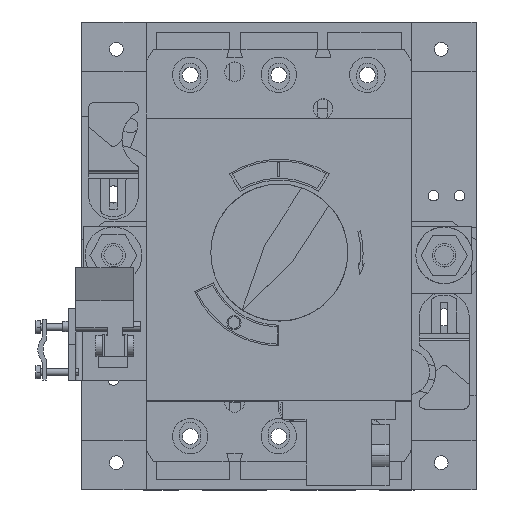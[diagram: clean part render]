
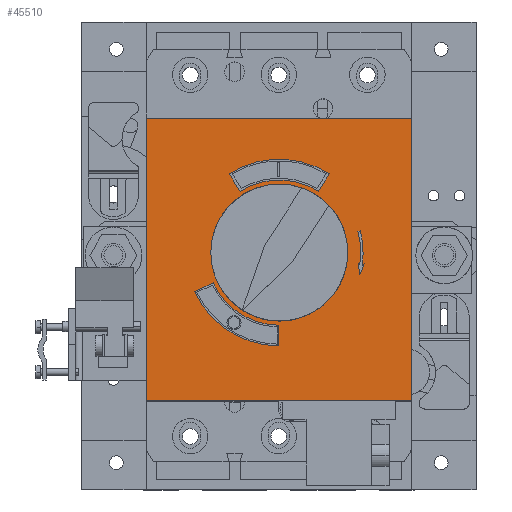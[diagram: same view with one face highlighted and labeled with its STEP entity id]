
A CAD part, top view. The second image highlights one B-rep face of the part: STEP entity #45510.
In plain terms, the highlighted planar face has unit normal (0, 0, 1).
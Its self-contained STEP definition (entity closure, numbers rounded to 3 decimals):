
#451 = FACE_BOUND ( 'NONE', #38839, .T. ) ;
#683 = DIRECTION ( 'NONE',  ( 1., 0., 0. ) ) ;
#946 = VERTEX_POINT ( 'NONE', #26856 ) ;
#1020 = VECTOR ( 'NONE', #18041, 1000. ) ;
#1097 = EDGE_CURVE ( 'NONE', #5021, #47071, #46709, .T. ) ;
#1280 = DIRECTION ( 'NONE',  ( 0.537, -0.843, 0. ) ) ;
#1625 = VERTEX_POINT ( 'NONE', #16471 ) ;
#1743 = CIRCLE ( 'NONE', #13530, 39.5 ) ;
#2472 = CARTESIAN_POINT ( 'NONE',  ( 56.12, -61.753, 267.1 ) ) ;
#3444 = LINE ( 'NONE', #12044, #19933 ) ;
#3824 = DIRECTION ( 'NONE',  ( 1., 0., 0. ) ) ;
#4788 = PLANE ( 'NONE',  #9354 ) ;
#5021 = VERTEX_POINT ( 'NONE', #2472 ) ;
#5835 = EDGE_CURVE ( 'NONE', #1625, #34906, #9898, .T. ) ;
#5933 = VECTOR ( 'NONE', #23138, 1000. ) ;
#6810 = VERTEX_POINT ( 'NONE', #45883 ) ;
#7171 = CARTESIAN_POINT ( 'NONE',  ( -21.023, 34.356, 267.1 ) ) ;
#7245 = EDGE_CURVE ( 'NONE', #34906, #5021, #29659, .T. ) ;
#8205 = EDGE_CURVE ( 'NONE', #27328, #35929, #1743, .T. ) ;
#8627 = CARTESIAN_POINT ( 'NONE',  ( 56.12, -61.753, 267.1 ) ) ;
#8702 = EDGE_CURVE ( 'NONE', #34008, #31788, #26340, .T. ) ;
#8786 = CARTESIAN_POINT ( 'NONE',  ( 56.12, 57.742, 267.1 ) ) ;
#9354 = AXIS2_PLACEMENT_3D ( 'NONE', #34871, #12372, #16310 ) ;
#9892 = LINE ( 'NONE', #22921, #11648 ) ;
#9898 = LINE ( 'NONE', #14316, #1020 ) ;
#9996 = CARTESIAN_POINT ( 'NONE',  ( 0.005, -38.457, 267.1 ) ) ;
#10247 = DIRECTION ( 'NONE',  ( 0., 0., -1. ) ) ;
#11088 = AXIS2_PLACEMENT_3D ( 'NONE', #39819, #10247, #25474 ) ;
#11216 = EDGE_CURVE ( 'NONE', #46333, #17798, #46478, .T. ) ;
#11586 = VECTOR ( 'NONE', #47332, 1000. ) ;
#11648 = VECTOR ( 'NONE', #11793, 1000. ) ;
#11793 = DIRECTION ( 'NONE',  ( -1., 0., 0. ) ) ;
#12044 = CARTESIAN_POINT ( 'NONE',  ( -21.023, 34.356, 267.1 ) ) ;
#12224 = ORIENTED_EDGE ( 'NONE', *, *, #5835, .T. ) ;
#12372 = DIRECTION ( 'NONE',  ( 0., 0., -1. ) ) ;
#13013 = CIRCLE ( 'NONE', #41215, 39.5 ) ;
#13530 = AXIS2_PLACEMENT_3D ( 'NONE', #15150, #26077, #14651 ) ;
#13858 = EDGE_CURVE ( 'NONE', #31788, #22410, #29170, .T. ) ;
#14316 = CARTESIAN_POINT ( 'NONE',  ( -56.11, 57.742, 267.1 ) ) ;
#14651 = DIRECTION ( 'NONE',  ( 1., 0., 0. ) ) ;
#15150 = CARTESIAN_POINT ( 'NONE',  ( 0.2, 1.042, 267.1 ) ) ;
#16310 = DIRECTION ( 'NONE',  ( -1., 0., 0. ) ) ;
#16471 = CARTESIAN_POINT ( 'NONE',  ( -56.11, 57.742, 267.1 ) ) ;
#16641 = ORIENTED_EDGE ( 'NONE', *, *, #8702, .F. ) ;
#17155 = ORIENTED_EDGE ( 'NONE', *, *, #11216, .F. ) ;
#17591 = EDGE_CURVE ( 'NONE', #25026, #946, #25960, .T. ) ;
#17790 = CARTESIAN_POINT ( 'NONE',  ( 0.2, 1.042, 267.1 ) ) ;
#17798 = VERTEX_POINT ( 'NONE', #34737 ) ;
#18041 = DIRECTION ( 'NONE',  ( 0., -1., 0. ) ) ;
#18642 = DIRECTION ( 'NONE',  ( 0., 0., 1. ) ) ;
#19656 = ORIENTED_EDGE ( 'NONE', *, *, #47927, .F. ) ;
#19933 = VECTOR ( 'NONE', #1280, 1000. ) ;
#20000 = CIRCLE ( 'NONE', #41448, 29. ) ;
#20889 = CARTESIAN_POINT ( 'NONE',  ( 29.2, 1.042, 267.1 ) ) ;
#20906 = ORIENTED_EDGE ( 'NONE', *, *, #31120, .F. ) ;
#21089 = FACE_OUTER_BOUND ( 'NONE', #23841, .T. ) ;
#21171 = ORIENTED_EDGE ( 'NONE', *, *, #25292, .F. ) ;
#21473 = ORIENTED_EDGE ( 'NONE', *, *, #1097, .T. ) ;
#21516 = DIRECTION ( 'NONE',  ( 0., 0., 1. ) ) ;
#22410 = VERTEX_POINT ( 'NONE', #47758 ) ;
#22921 = CARTESIAN_POINT ( 'NONE',  ( 56.12, 57.742, 267.1 ) ) ;
#23138 = DIRECTION ( 'NONE',  ( 0.537, 0.843, 0. ) ) ;
#23169 = EDGE_LOOP ( 'NONE', ( #30733, #31858 ) ) ;
#23841 = EDGE_LOOP ( 'NONE', ( #21473, #39701, #12224, #36747 ) ) ;
#25026 = VERTEX_POINT ( 'NONE', #20889 ) ;
#25180 = FACE_BOUND ( 'NONE', #39795, .T. ) ;
#25292 = EDGE_CURVE ( 'NONE', #6810, #34008, #13013, .T. ) ;
#25474 = DIRECTION ( 'NONE',  ( 1., 0., 0. ) ) ;
#25524 = CARTESIAN_POINT ( 'NONE',  ( 0.005, -29.707, 267.1 ) ) ;
#25960 = CIRCLE ( 'NONE', #27464, 29. ) ;
#26077 = DIRECTION ( 'NONE',  ( 0., 0., 1. ) ) ;
#26154 = CARTESIAN_POINT ( 'NONE',  ( -56.11, -61.753, 267.1 ) ) ;
#26253 = LINE ( 'NONE', #36503, #11586 ) ;
#26340 = LINE ( 'NONE', #25524, #35201 ) ;
#26856 = CARTESIAN_POINT ( 'NONE',  ( -28.8, 1.042, 267.1 ) ) ;
#27111 = DIRECTION ( 'NONE',  ( 0., 0., -1. ) ) ;
#27162 = ORIENTED_EDGE ( 'NONE', *, *, #13858, .F. ) ;
#27328 = VERTEX_POINT ( 'NONE', #41167 ) ;
#27464 = AXIS2_PLACEMENT_3D ( 'NONE', #44900, #18642, #3824 ) ;
#27514 = DIRECTION ( 'NONE',  ( 0., 1., 0. ) ) ;
#28496 = VECTOR ( 'NONE', #683, 1000. ) ;
#29170 = CIRCLE ( 'NONE', #11088, 30.75 ) ;
#29659 = LINE ( 'NONE', #8627, #28496 ) ;
#30575 = CARTESIAN_POINT ( 'NONE',  ( 21.423, 34.356, 267.1 ) ) ;
#30733 = ORIENTED_EDGE ( 'NONE', *, *, #31344, .F. ) ;
#30815 = VECTOR ( 'NONE', #27514, 1000. ) ;
#31120 = EDGE_CURVE ( 'NONE', #22410, #6810, #26253, .T. ) ;
#31344 = EDGE_CURVE ( 'NONE', #946, #25026, #20000, .T. ) ;
#31788 = VERTEX_POINT ( 'NONE', #40272 ) ;
#31858 = ORIENTED_EDGE ( 'NONE', *, *, #17591, .F. ) ;
#34008 = VERTEX_POINT ( 'NONE', #9996 ) ;
#34174 = ORIENTED_EDGE ( 'NONE', *, *, #8205, .F. ) ;
#34737 = CARTESIAN_POINT ( 'NONE',  ( 16.722, 26.977, 267.1 ) ) ;
#34871 = CARTESIAN_POINT ( 'NONE',  ( 0.005, 0., 267.1 ) ) ;
#34906 = VERTEX_POINT ( 'NONE', #26154 ) ;
#35201 = VECTOR ( 'NONE', #48544, 1000. ) ;
#35929 = VERTEX_POINT ( 'NONE', #7171 ) ;
#36289 = CARTESIAN_POINT ( 'NONE',  ( -16.322, 26.977, 267.1 ) ) ;
#36503 = CARTESIAN_POINT ( 'NONE',  ( -35.683, -15.47, 267.1 ) ) ;
#36747 = ORIENTED_EDGE ( 'NONE', *, *, #7245, .T. ) ;
#38839 = EDGE_LOOP ( 'NONE', ( #27162, #16641, #21171, #20906 ) ) ;
#38955 = CARTESIAN_POINT ( 'NONE',  ( 0.2, 1.042, 267.1 ) ) ;
#39701 = ORIENTED_EDGE ( 'NONE', *, *, #41796, .T. ) ;
#39795 = EDGE_LOOP ( 'NONE', ( #34174, #19656, #17155, #46795 ) ) ;
#39819 = CARTESIAN_POINT ( 'NONE',  ( 0.2, 1.042, 267.1 ) ) ;
#40144 = DIRECTION ( 'NONE',  ( 0., 0., 1. ) ) ;
#40272 = CARTESIAN_POINT ( 'NONE',  ( 0.005, -29.707, 267.1 ) ) ;
#40484 = FACE_BOUND ( 'NONE', #23169, .T. ) ;
#41167 = CARTESIAN_POINT ( 'NONE',  ( 21.423, 34.356, 267.1 ) ) ;
#41215 = AXIS2_PLACEMENT_3D ( 'NONE', #17790, #21516, #47827 ) ;
#41448 = AXIS2_PLACEMENT_3D ( 'NONE', #43903, #40144, #47521 ) ;
#41796 = EDGE_CURVE ( 'NONE', #47071, #1625, #9892, .T. ) ;
#42241 = DIRECTION ( 'NONE',  ( 1., 0., 0. ) ) ;
#43333 = AXIS2_PLACEMENT_3D ( 'NONE', #38955, #27111, #42241 ) ;
#43903 = CARTESIAN_POINT ( 'NONE',  ( 0.2, 1.042, 267.1 ) ) ;
#44900 = CARTESIAN_POINT ( 'NONE',  ( 0.2, 1.042, 267.1 ) ) ;
#45218 = CARTESIAN_POINT ( 'NONE',  ( 56.12, 57.742, 267.1 ) ) ;
#45478 = EDGE_CURVE ( 'NONE', #35929, #46333, #3444, .T. ) ;
#45510 = ADVANCED_FACE ( 'NONE', ( #451, #40484, #21089, #25180 ), #4788, .F. ) ;
#45883 = CARTESIAN_POINT ( 'NONE',  ( -35.683, -15.47, 267.1 ) ) ;
#46333 = VERTEX_POINT ( 'NONE', #36289 ) ;
#46478 = CIRCLE ( 'NONE', #43333, 30.75 ) ;
#46709 = LINE ( 'NONE', #8786, #30815 ) ;
#46795 = ORIENTED_EDGE ( 'NONE', *, *, #45478, .F. ) ;
#47071 = VERTEX_POINT ( 'NONE', #45218 ) ;
#47332 = DIRECTION ( 'NONE',  ( -0.908, -0.418, 0. ) ) ;
#47521 = DIRECTION ( 'NONE',  ( 1., 0., 0. ) ) ;
#47620 = LINE ( 'NONE', #30575, #5933 ) ;
#47758 = CARTESIAN_POINT ( 'NONE',  ( -27.734, -11.812, 267.1 ) ) ;
#47827 = DIRECTION ( 'NONE',  ( 1., 0., 0. ) ) ;
#47927 = EDGE_CURVE ( 'NONE', #17798, #27328, #47620, .T. ) ;
#48544 = DIRECTION ( 'NONE',  ( 0., 1., 0. ) ) ;
